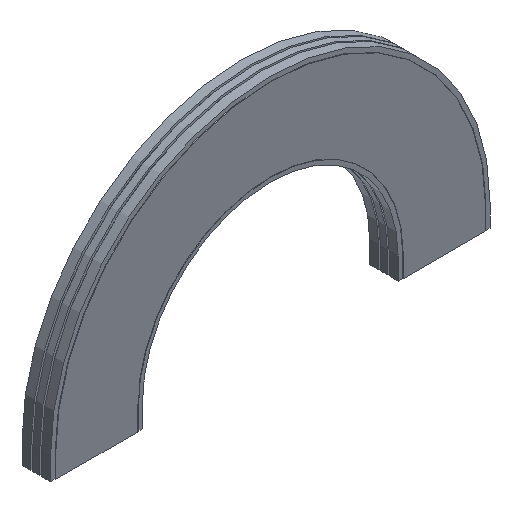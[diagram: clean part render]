
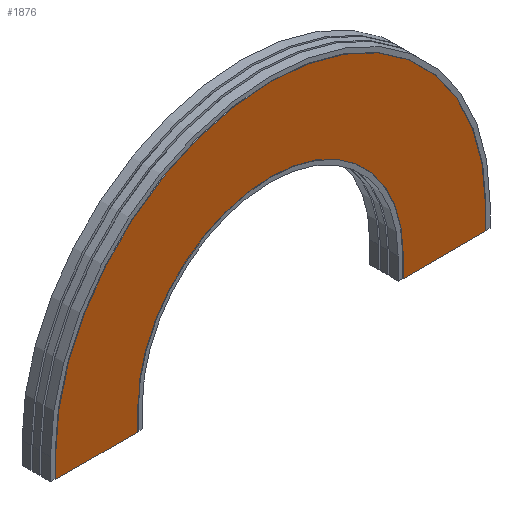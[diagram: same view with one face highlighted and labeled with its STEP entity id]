
A CAD part, isometric view. The second image highlights one B-rep face of the part: STEP entity #1876.
In plain terms, the highlighted planar face has unit normal (0, -1, 0).
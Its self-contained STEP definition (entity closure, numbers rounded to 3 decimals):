
#178 = FACE_OUTER_BOUND ( 'NONE', #883, .T. ) ;
#383 = CARTESIAN_POINT ( 'NONE',  ( -609.5, -68., 0. ) ) ;
#385 = PLANE ( 'NONE',  #1623 ) ;
#387 = DIRECTION ( 'NONE',  ( 0., 1., 0. ) ) ;
#388 = DIRECTION ( 'NONE',  ( -1., 0., 0. ) ) ;
#653 = DIRECTION ( 'NONE',  ( 0., 0., 1. ) ) ;
#655 = CARTESIAN_POINT ( 'NONE',  ( 0., -68., 0. ) ) ;
#656 = DIRECTION ( 'NONE',  ( 0., 1., 0. ) ) ;
#657 = DIRECTION ( 'NONE',  ( -1., 0., 0. ) ) ;
#660 = CARTESIAN_POINT ( 'NONE',  ( 0., -68., -100. ) ) ;
#661 = CARTESIAN_POINT ( 'NONE',  ( 0., -68., -100. ) ) ;
#662 = CARTESIAN_POINT ( 'NONE',  ( -990.5, -68., -100. ) ) ;
#663 = CARTESIAN_POINT ( 'NONE',  ( 0., -68., 0. ) ) ;
#664 = DIRECTION ( 'NONE',  ( 0., 1., 0. ) ) ;
#665 = DIRECTION ( 'NONE',  ( -1., 0., 0. ) ) ;
#666 = DIRECTION ( 'NONE',  ( -1., 0., 0. ) ) ;
#667 = CARTESIAN_POINT ( 'NONE',  ( -609.5, -68., -100. ) ) ;
#668 = DIRECTION ( 'NONE',  ( 0., 0., 1. ) ) ;
#669 = CARTESIAN_POINT ( 'NONE',  ( 609.5, -68., -100. ) ) ;
#671 = DIRECTION ( 'NONE',  ( 0., 0., 1. ) ) ;
#672 = DIRECTION ( 'NONE',  ( -1., 0., 0. ) ) ;
#673 = CARTESIAN_POINT ( 'NONE',  ( 990.5, -68., -100. ) ) ;
#674 = DIRECTION ( 'NONE',  ( 0., 0., 1. ) ) ;
#883 = EDGE_LOOP ( 'NONE', ( #1699, #1698, #1697, #1696, #1695, #1694, #1734, #1733 ) ) ;
#1039 = CIRCLE ( 'NONE', #1596, 609.5 ) ;
#1041 = LINE ( 'NONE', #662, #1048 ) ;
#1044 = CIRCLE ( 'NONE', #1597, 990.5 ) ;
#1046 = LINE ( 'NONE', #660, #1050 ) ;
#1047 = LINE ( 'NONE', #661, #1056 ) ;
#1048 = VECTOR ( 'NONE', #653, 1000. ) ;
#1049 = LINE ( 'NONE', #667, #1052 ) ;
#1050 = VECTOR ( 'NONE', #666, 1000. ) ;
#1051 = LINE ( 'NONE', #669, #1054 ) ;
#1052 = VECTOR ( 'NONE', #668, 1000. ) ;
#1054 = VECTOR ( 'NONE', #671, 1000. ) ;
#1055 = LINE ( 'NONE', #673, #1058 ) ;
#1056 = VECTOR ( 'NONE', #672, 1000. ) ;
#1058 = VECTOR ( 'NONE', #674, 1000. ) ;
#1121 = VERTEX_POINT ( 'NONE', #1742 ) ;
#1129 = VERTEX_POINT ( 'NONE', #1740 ) ;
#1130 = VERTEX_POINT ( 'NONE', #1744 ) ;
#1131 = VERTEX_POINT ( 'NONE', #1745 ) ;
#1132 = VERTEX_POINT ( 'NONE', #1746 ) ;
#1133 = VERTEX_POINT ( 'NONE', #1747 ) ;
#1136 = VERTEX_POINT ( 'NONE', #1750 ) ;
#1150 = VERTEX_POINT ( 'NONE', #1764 ) ;
#1459 = EDGE_CURVE ( 'NONE', #1136, #1133, #1039, .T. ) ;
#1462 = EDGE_CURVE ( 'NONE', #1130, #1150, #1044, .T. ) ;
#1463 = EDGE_CURVE ( 'NONE', #1131, #1130, #1041, .T. ) ;
#1464 = EDGE_CURVE ( 'NONE', #1129, #1131, #1046, .T. ) ;
#1465 = EDGE_CURVE ( 'NONE', #1129, #1136, #1049, .T. ) ;
#1466 = EDGE_CURVE ( 'NONE', #1132, #1133, #1051, .T. ) ;
#1467 = EDGE_CURVE ( 'NONE', #1121, #1132, #1047, .T. ) ;
#1468 = EDGE_CURVE ( 'NONE', #1121, #1150, #1055, .T. ) ;
#1596 = AXIS2_PLACEMENT_3D ( 'NONE', #655, #656, #657 ) ;
#1597 = AXIS2_PLACEMENT_3D ( 'NONE', #663, #664, #665 ) ;
#1623 = AXIS2_PLACEMENT_3D ( 'NONE', #383, #387, #388 ) ;
#1694 = ORIENTED_EDGE ( 'NONE', *, *, #1466, .F. ) ;
#1695 = ORIENTED_EDGE ( 'NONE', *, *, #1459, .T. ) ;
#1696 = ORIENTED_EDGE ( 'NONE', *, *, #1465, .T. ) ;
#1697 = ORIENTED_EDGE ( 'NONE', *, *, #1464, .F. ) ;
#1698 = ORIENTED_EDGE ( 'NONE', *, *, #1463, .F. ) ;
#1699 = ORIENTED_EDGE ( 'NONE', *, *, #1462, .F. ) ;
#1733 = ORIENTED_EDGE ( 'NONE', *, *, #1468, .T. ) ;
#1734 = ORIENTED_EDGE ( 'NONE', *, *, #1467, .F. ) ;
#1740 = CARTESIAN_POINT ( 'NONE',  ( -609.5, -68., -100. ) ) ;
#1742 = CARTESIAN_POINT ( 'NONE',  ( 990.5, -68., -100. ) ) ;
#1744 = CARTESIAN_POINT ( 'NONE',  ( -990.5, -68., 0. ) ) ;
#1745 = CARTESIAN_POINT ( 'NONE',  ( -990.5, -68., -100. ) ) ;
#1746 = CARTESIAN_POINT ( 'NONE',  ( 609.5, -68., -100. ) ) ;
#1747 = CARTESIAN_POINT ( 'NONE',  ( 609.5, -68., 0. ) ) ;
#1750 = CARTESIAN_POINT ( 'NONE',  ( -609.5, -68., 0. ) ) ;
#1764 = CARTESIAN_POINT ( 'NONE',  ( 990.5, -68., 0. ) ) ;
#1876 = ADVANCED_FACE ( 'NONE', ( #178 ), #385, .F. ) ;
